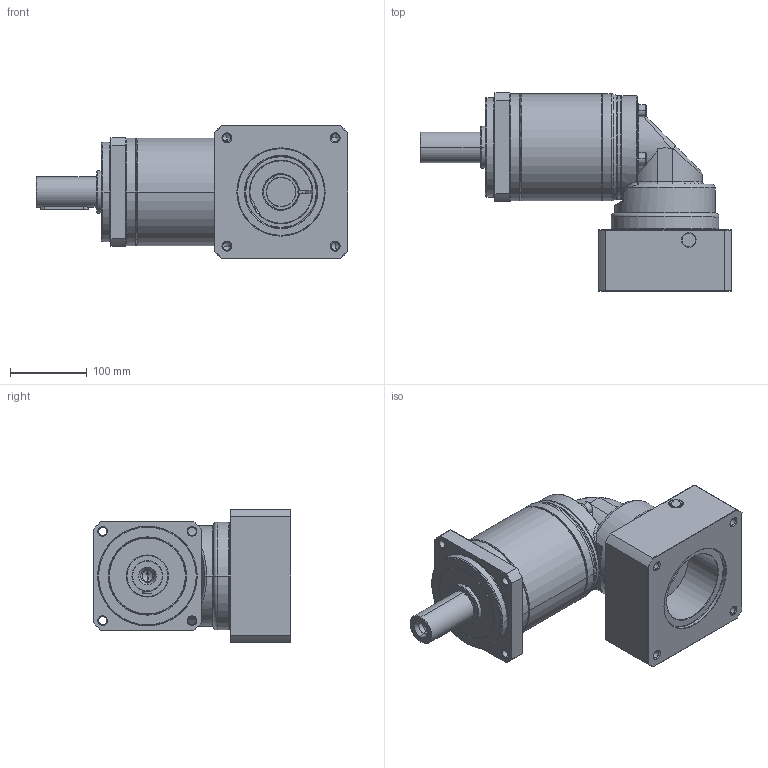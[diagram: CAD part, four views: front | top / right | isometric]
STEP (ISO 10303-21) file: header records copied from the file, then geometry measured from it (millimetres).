
FILE_DESCRIPTION((''),'2;1');
FILE_NAME('PA2R-142_2ST_38-P0411900101_ASM','2016-05-17T',('d01943'),(''),'PRO/ENGINEER BY PARAMETRIC TECHNOLOGY CORPORATION, 2008410','PRO/ENGINEER BY PARAMETRIC TECHNOLOGY CORPORATION, 2008410','');
FILE_SCHEMA(('CONFIG_CONTROL_DESIGN'));
Length unit declared in the file: millimetre
Products named in the file (12): P1327510001; P0251500001; P0350500601; P1349500001; P1017500001; P0713505001; P0503900010; P1350500501; P0411900101; P1702600001; 2111BA10040; PA2R-142_2ST_38-P0411900101_ASM
Assembly tree (14 placements, depth 2):
  PA2R-142_2ST_38-P0411900101_ASM
    P1327510001
    P0251500001
    P0350500601
    P1349500001
    P1017500001
    P0713505001
    P0503900010
    P1350500501
    P0411900101
    P1702600001
    2111BA10040  x4
Bounding box: 406.5 x 258.5 x 174 mm (x, y, z)
Volume: 4560526.2 mm3; surface area: 601892.2 mm2
Topology: 14 solids, 14 shells, 736 faces, 1621 edges, 937 vertices
Faces by surface type: cylinder 218, cone 214, plane 168, torus 104, bspline 32
Entity records: 23511 total; most frequent: CARTESIAN_POINT 9243, DIRECTION 3151, ORIENTED_EDGE 2770, EDGE_CURVE 1385, AXIS2_PLACEMENT_3D 1327, VERTEX_POINT 817, EDGE_LOOP 718, CIRCLE 696
